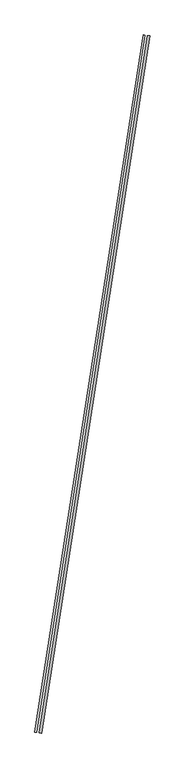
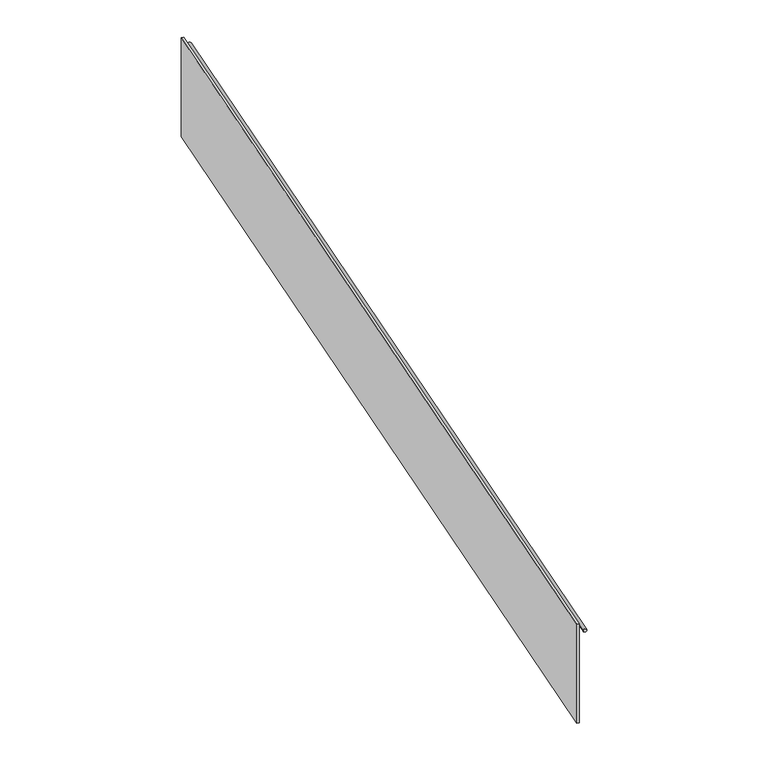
"""IFC4 building model written with IfcOpenShell, lengths in millimetres: railing geometry, Panel de vidrio - balcón."""

from ifc_helpers import new_model, si_unit, point, frame, origin, origin_2d, place, context, project, spatial, polyline, circle_curve, trimmed, segment, composite_curve, outline, extrude, source, transform, mapped, element, save


def railing_d528a2e1(model_context):
    return source(origin(), model_context, "Body", "SweptSolid", [
        extrude(outline(polyline([(-34194.1864756, -62027.932986), (-34169.4847429, -62031.783233), (-35848.9624765, -72806.6790349), (-35873.6642092, -72802.8287879), (-34194.1864756, -62027.932986)])), frame((0.0, 0.0, 12545.385397), z_axis=(0.0, 0.0, 1.0), x_axis=(1.0, 0.0, 0.0)), (0.0, 0.0, 1.0), 1200.0),
        extrude(outline(composite_curve([segment(trimmed(circle_curve(origin_2d(), 20.0), [point((20.0, 0.0))], [point((-19.9999999, 0.0))], False, "CARTESIAN"), True, "CONTINUOUS"), segment(trimmed(circle_curve(origin_2d(), 20.0), [point((-19.9999999, 0.0))], [point((20.0, 0.0))], False, "CARTESIAN"), True, "CONTINUOUS")], self_intersect=False)), frame((-35787.7946585, -72816.2132327, 13650.0), z_axis=(0.15400987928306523, 0.9880693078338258, 0.0), x_axis=(0.9880693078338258, -0.15400987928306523, 0.0)), (0.0, 0.0, 1.0), 10905.0),
    ])


if __name__ == "__main__":
    model = new_model("IFC4")
    model_context = context("Model", 3, world=origin())
    ifc_project = project(units=[si_unit("LENGTHUNIT", "METRE", prefix="MILLI")], contexts=[model_context])
    site = spatial("IfcSite", under=ifc_project)
    building = spatial("IfcBuilding", under=site)
    placement = place(None, origin())
    railing_shape = railing_d528a2e1(model_context)
    element("IfcRailing", 1, ObjectType="Panel de vidrio - balcón", at=placement, inside=building, context=model_context, shape_type="MappedRepresentation", body=[
        mapped(railing_shape, transform((0.0, 0.0, 0.0), x_axis=(1.0, 0.0, 0.0), y_axis=(0.0, 1.0, 0.0), z_axis=(0.0, 0.0, 1.0))),
    ])
    save(model, "model.ifc")
